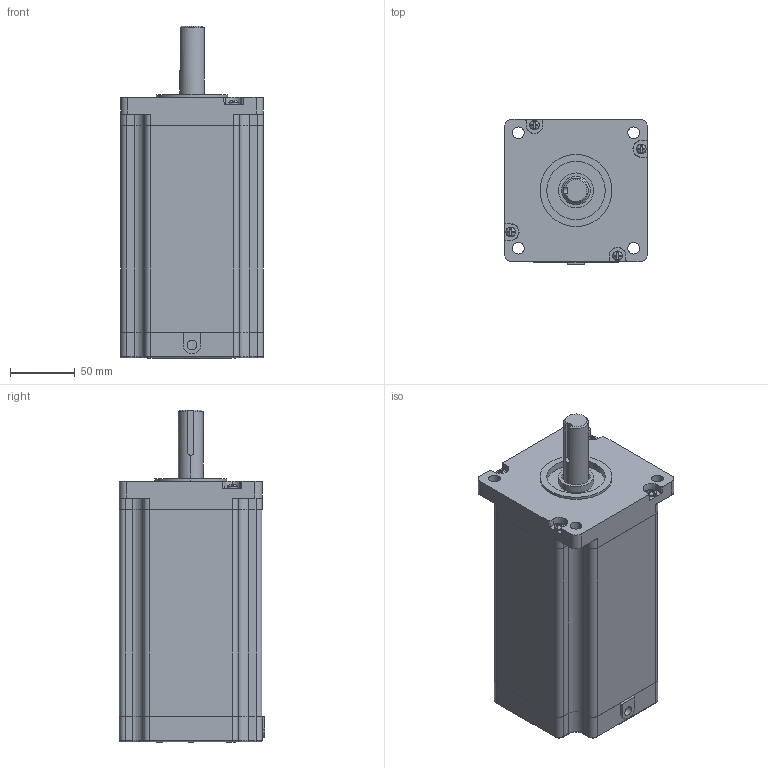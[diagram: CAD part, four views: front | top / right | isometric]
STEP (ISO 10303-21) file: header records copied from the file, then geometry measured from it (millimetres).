
FILE_DESCRIPTION (( 'STEP AP214' ), '1' );
FILE_NAME ('LS110A28-R9J60.STEP', '2019-11-27T08:20:35', ( '' ), ( '' ), 'SwSTEP 2.0', 'SolidWorks 2018', '' );
FILE_SCHEMA (( 'AUTOMOTIVE_DESIGN' ));
Length unit declared in the file: millimetre
Products named in the file (1): LS110A28-R9J60
Bounding box: 110 x 112 x 256 mm (x, y, z)
Volume: 1344807.1 mm3; surface area: 180519.7 mm2
Topology: 1 solids, 5 shells, 2950 faces, 8469 edges, 5630 vertices
Faces by surface type: plane 2763, cylinder 143, torus 28, cone 8, sphere 8
Entity records: 97110 total; most frequent: CARTESIAN_POINT 17274, ORIENTED_EDGE 16938, DIRECTION 14711, EDGE_CURVE 8469, LINE 8053, VECTOR 8053, VERTEX_POINT 5630, AXIS2_PLACEMENT_3D 3329
